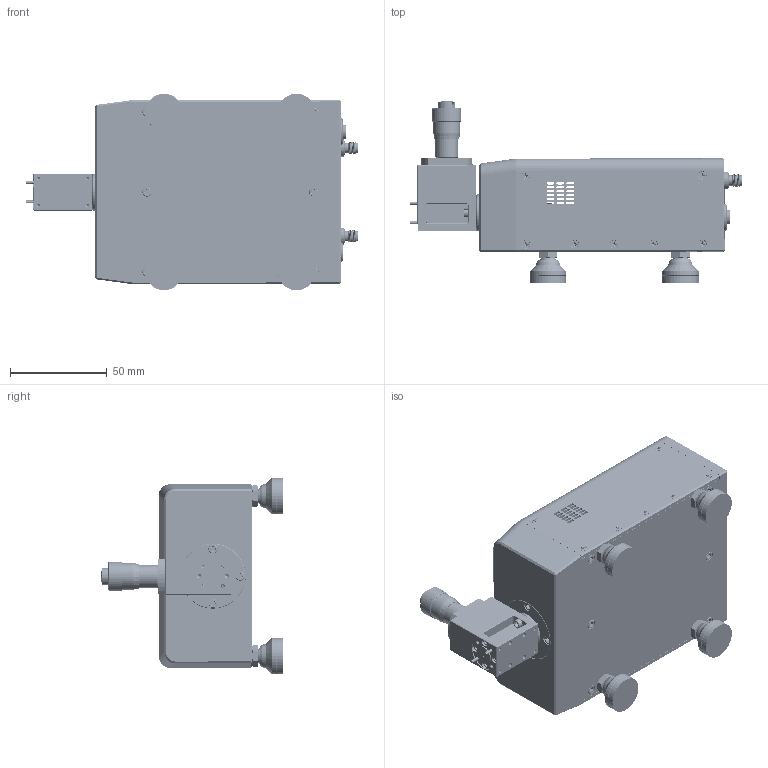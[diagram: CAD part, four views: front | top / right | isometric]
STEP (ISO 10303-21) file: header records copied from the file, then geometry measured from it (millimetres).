
FILE_DESCRIPTION (( 'STEP AP203' ), '1' );
FILE_NAME ('TO-RW-A.STEP', '2024-09-30T21:28:30', ( '' ), ( '' ), 'SwSTEP 2.0', 'SolidWorks 2021', '' );
FILE_SCHEMA (( 'CONFIG_CONTROL_DESIGN' ));
Products named in the file (1): TO-RW-A
Bounding box: 171.94 x 94.12 x 101.9 mm (x, y, z)
Volume: 244031.1 mm3; surface area: 137149.3 mm2
Topology: 85 solids, 90 shells, 4908 faces, 12742 edges, 8054 vertices
Faces by surface type: cylinder 2232, plane 1363, cone 989, bspline 275, sphere 37, torus 12
Entity records: 248702 total; most frequent: CARTESIAN_POINT 139741, ORIENTED_EDGE 25062, DIRECTION 20269, EDGE_CURVE 12531, VERTEX_POINT 8024, AXIS2_PLACEMENT_3D 7749, EDGE_LOOP 5377, ADVANCED_FACE 4908
